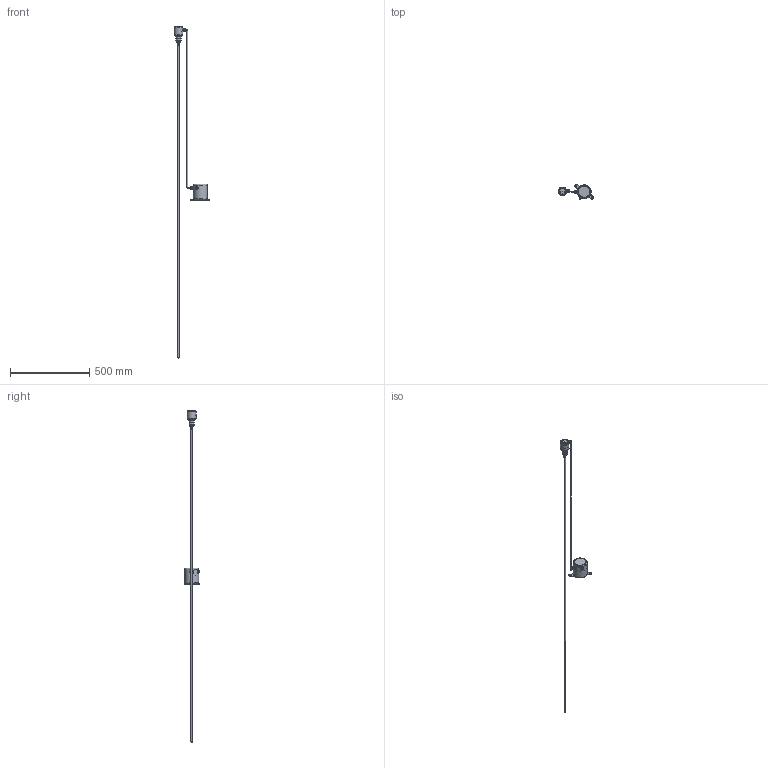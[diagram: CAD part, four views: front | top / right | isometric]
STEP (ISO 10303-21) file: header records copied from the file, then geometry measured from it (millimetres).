
FILE_DESCRIPTION( ( 'Unknown' ), '1' );
FILE_NAME( 'Z:/U_Proces/dokumentation new/Mechanical parts/7000 3D Step filer/7000-/7000261/LSP-056.194.2.100.stp', 'Unknown', ( 'Unknown' ), ( 'Unknown' ), 'PSStep 15.0.49', 'Unknown', ' ' );
FILE_SCHEMA( ( 'AUTOMOTIVE_DESIGN { 1 0 10303 214 1 1 1 1 }' ) );
Length unit declared in the file: millimetre
Products named in the file (1): kms-061-000-500
Bounding box: 225.38 x 96.64 x 2097.55 mm (x, y, z)
Volume: 404226.9 mm3; surface area: 199285.7 mm2
Topology: 1 solids, 7 shells, 300 faces, 686 edges, 451 vertices
Faces by surface type: cylinder 116, plane 114, cone 46, torus 20, bspline 2, sphere 2
Full cylindrical faces by diameter (mm): 1.64 x4, 3 x6, 4 x4, 4.9 x2, 5 x3, 7 x1, 7.709 x1, 8 x3, 10 x3, 10.2 x1, 10.5 x1, 11.741 x1, 11.9 x1, 13.8 x1, 14 x1, 15.8 x1, 16 x8, 21.5 x1, 22 x2, 24.98 x1, 25 x1, 26 x2, 29.5 x2, 33.82 x1, 40 x1, 45 x1, 48.2 x1, 50 x1, 52.2 x1, 54.5 x2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
Entity records: 11279 total; most frequent: CARTESIAN_POINT 2809, DIRECTION 1324, ORIENTED_EDGE 1000, AXIS2_PLACEMENT_3D 587, EDGE_CURVE 500, EDGE_LOOP 490, VERTEX_POINT 393, FACE_OUTER_BOUND 381
